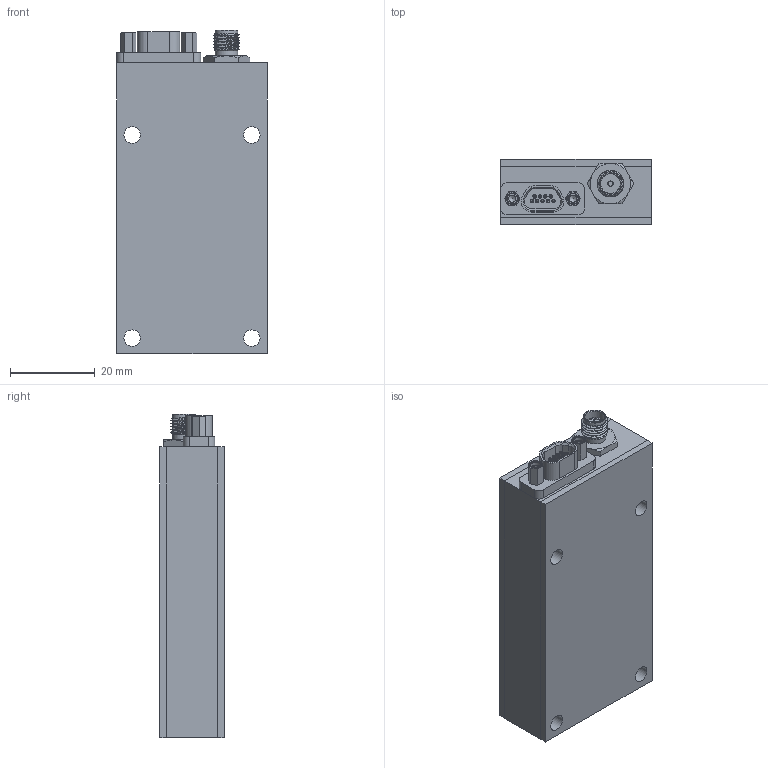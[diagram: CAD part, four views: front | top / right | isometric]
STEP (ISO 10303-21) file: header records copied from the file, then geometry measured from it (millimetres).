
FILE_DESCRIPTION (( 'STEP AP214' ), '1' );
FILE_NAME ('TX-2400M_Assembly.STEP', '2016-02-11T21:27:18', ( '' ), ( '' ), 'SwSTEP 2.0', 'SolidWorks 2013', '' );
FILE_SCHEMA (( 'AUTOMOTIVE_DESIGN' ));
Length unit declared in the file: millimetre
Products named in the file (5): SMA Bulkhead Adpater; TX-2400M_Assembly; TX-2400M_Enclosure; 9 F Micro-D CBR^TX-2400M_Assembly
Assembly tree (4 placements, depth 3):
  TX-2400M_Assembly
    TX-2400M_Enclosure
    9 F Micro-D CBR^TX-2400M_Assembly
    SMA Bulkhead Adpater
      SMA Bulkhead Adpater
Bounding box: 35.56 x 15.24 x 76.28 mm (x, y, z)
Volume: 36965.4 mm3; surface area: 10415 mm2
Topology: 2 solids, 5 shells, 263 faces, 646 edges, 408 vertices
Faces by surface type: plane 95, cylinder 65, cone 57, bspline 41, torus 5
Full cylindrical faces by diameter (mm): 0.571 x1, 0.572 x3, 0.648 x5, 0.825 x6, 0.826 x3, 1.694 x2, 2.362 x2, 3.886 x4, 4.61 x2, 5.334 x4
Entity records: 20397 total; most frequent: CARTESIAN_POINT 13577, ORIENTED_EDGE 1105, DIRECTION 871, EDGE_CURVE 559, VERTEX_POINT 383, AXIS2_PLACEMENT_3D 363, EDGE_LOOP 353, FACE_OUTER_BOUND 304
